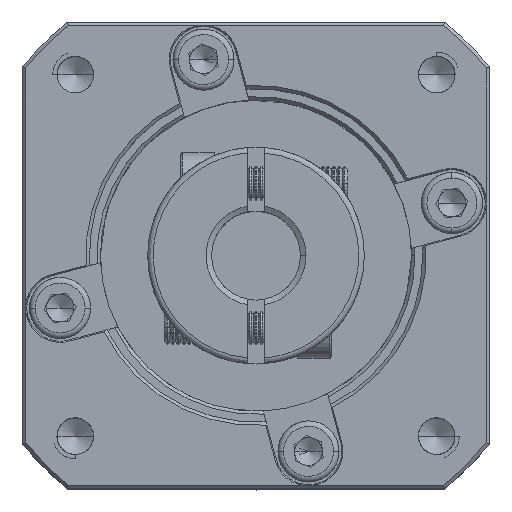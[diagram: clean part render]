
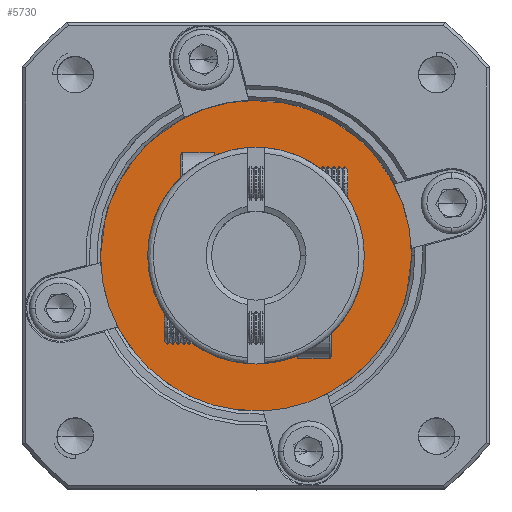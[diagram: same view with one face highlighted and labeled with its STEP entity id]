
A CAD part, top view. The second image highlights one B-rep face of the part: STEP entity #5730.
In plain terms, the highlighted planar face has unit normal (0, 0, 1).
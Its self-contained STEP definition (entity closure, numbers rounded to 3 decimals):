
#2655 = DIRECTION ( 'NONE',  ( 0., 0., 1. ) ) ;
#3109 = FACE_OUTER_BOUND ( 'NONE', #91749, .T. ) ;
#5730 = ADVANCED_FACE ( 'NONE', ( #3109 ), #66108, .T. ) ;
#18230 = CARTESIAN_POINT ( 'NONE',  ( -21.557, 4.283, 79.087 ) ) ;
#20929 = AXIS2_PLACEMENT_3D ( 'NONE', #18230, #92950, #28915 ) ;
#28229 = VERTEX_POINT ( 'NONE', #44422 ) ;
#28915 = DIRECTION ( 'NONE',  ( -1., 0., 0. ) ) ;
#31983 = CARTESIAN_POINT ( 'NONE',  ( -21.557, 4.283, 79.087 ) ) ;
#32410 = EDGE_CURVE ( 'NONE', #94021, #28229, #48603, .T. ) ;
#42742 = DIRECTION ( 'NONE',  ( -1., 0., 0. ) ) ;
#44422 = CARTESIAN_POINT ( 'NONE',  ( -42.357, 4.283, 79.087 ) ) ;
#48603 = CIRCLE ( 'NONE', #110279, 20.8 ) ;
#54744 = CARTESIAN_POINT ( 'NONE',  ( -0.757, 4.283, 79.087 ) ) ;
#66108 = PLANE ( 'NONE',  #109856 ) ;
#66574 = CARTESIAN_POINT ( 'NONE',  ( -21.557, 4.283, 79.087 ) ) ;
#73197 = EDGE_CURVE ( 'NONE', #28229, #94021, #130823, .T. ) ;
#77336 = DIRECTION ( 'NONE',  ( 1., 0., 0. ) ) ;
#85899 = ORIENTED_EDGE ( 'NONE', *, *, #32410, .F. ) ;
#91749 = EDGE_LOOP ( 'NONE', ( #117236, #85899 ) ) ;
#92950 = DIRECTION ( 'NONE',  ( 0., 0., -1. ) ) ;
#94021 = VERTEX_POINT ( 'NONE', #54744 ) ;
#106857 = DIRECTION ( 'NONE',  ( 0., 0., -1. ) ) ;
#109856 = AXIS2_PLACEMENT_3D ( 'NONE', #66574, #2655, #77336 ) ;
#110279 = AXIS2_PLACEMENT_3D ( 'NONE', #31983, #106857, #42742 ) ;
#117236 = ORIENTED_EDGE ( 'NONE', *, *, #73197, .F. ) ;
#130823 = CIRCLE ( 'NONE', #20929, 20.8 ) ;
